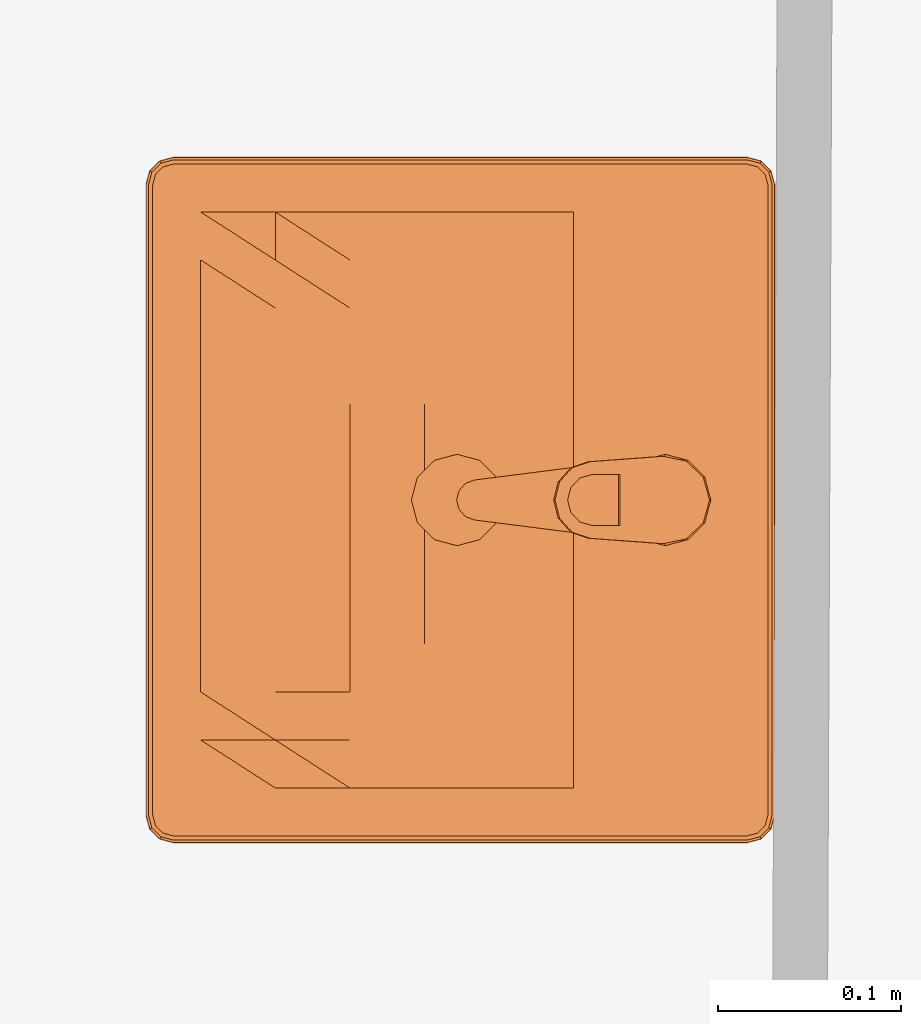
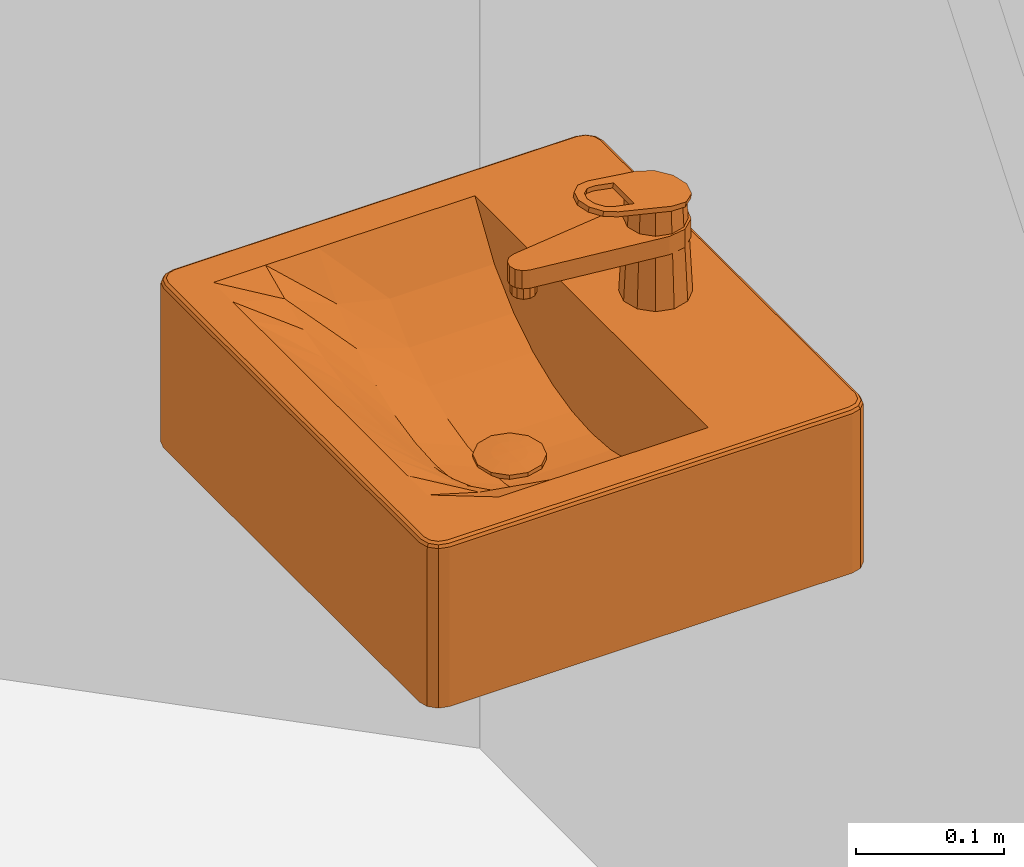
# One storey, part 142 of 158: 1 proxy.
"""IFC2X3 building model written with IfcOpenShell, lengths in metres."""

from ifc_helpers import new_model, entity, si_unit, converted_unit, derived_unit, money_unit, direction, frame, origin_with_axes, place, context, subcontext, project, spatial, open_shell, faceted_brep, surface_model, source, transform, mapped, type_object, element, save


model = new_model("IFC2X3")

# Units and contexts
model_context = context("Model", 3, precision=1e-05, world=origin_with_axes(), true_north=direction((0.0, 1.0)))
body_context = subcontext(model_context, "Body", "Model", "MODEL_VIEW")
ifc_project = project(units=[si_unit("LENGTHUNIT", "METRE"), si_unit("AREAUNIT", "SQUARE_METRE"), si_unit("VOLUMEUNIT", "CUBIC_METRE"), converted_unit("PLANEANGLEUNIT", "DEGREE", entity("IfcPlaneAngleMeasure", 0.0174532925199), si_unit("PLANEANGLEUNIT", "RADIAN"), dimensions=[0, 0, 0, 0, 0, 0, 0]), money_unit("EUR"), converted_unit("TIMEUNIT", "Year", entity("IfcTimeMeasure", 31556926.0), si_unit("TIMEUNIT", "SECOND"), dimensions=[0, 0, 1, 0, 0, 0, 0]), si_unit("MASSUNIT", "GRAM", prefix="KILO"), si_unit("THERMODYNAMICTEMPERATUREUNIT", "DEGREE_CELSIUS"), si_unit("LUMINOUSINTENSITYUNIT", "LUMEN"), si_unit("ENERGYUNIT", "JOULE", prefix="MEGA"), derived_unit("THERMALCONDUCTANCEUNIT", [(si_unit("POWERUNIT", "WATT"), 1), (si_unit("LENGTHUNIT", "METRE"), -1), (si_unit("THERMODYNAMICTEMPERATUREUNIT", "KELVIN"), -1)]), derived_unit("SPECIFICHEATCAPACITYUNIT", [(si_unit("ENERGYUNIT", "JOULE"), 1), (si_unit("MASSUNIT", "GRAM", prefix="KILO"), -1), (si_unit("THERMODYNAMICTEMPERATUREUNIT", "KELVIN"), -1)]), derived_unit("MASSDENSITYUNIT", [(si_unit("MASSUNIT", "GRAM", prefix="KILO"), 1), (si_unit("VOLUMEUNIT", "CUBIC_METRE"), -1)])], contexts=[model_context])

# Site, building, storey
site_placement = place(None, origin_with_axes())
site = spatial("IfcSite", under=ifc_project, at=site_placement, Name="Gelände", CompositionType="ELEMENT")
building_placement = place(site_placement, origin_with_axes())
building = spatial("IfcBuilding", under=site, at=building_placement, Name="Gebäude", CompositionType="ELEMENT")
storey_placement = place(building_placement, origin_with_axes())
storey = spatial("IfcBuildingStorey", under=building, at=storey_placement, Name="ERDGESCHOSS", CompositionType="ELEMENT", Elevation=0.0)

# Proxy
building_element_proxy_type = type_object("IfcBuildingElementProxyType", Name="Waschbecken 01 25", PredefinedType="NOTDEFINED")
shared_shape = source(origin_with_axes(), body_context, "Body", "SurfaceModel", [
    faceted_brep([(0.1725, -0.344011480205, 0.865), (-0.1725, -0.344011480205, 0.865), (-0.18, -0.342001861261, 0.865), (-0.185490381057, -0.336511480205, 0.865), (-0.1875, -0.329011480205, 0.865), (-0.1875, -0.015, 0.865), (-0.185490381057, -0.0075, 0.865), (-0.18, -0.00200961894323, 0.865), (-0.1725, 0.0, 0.865), (0.1725, 0.0, 0.865), (0.18, -0.00200961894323, 0.865), (0.185490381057, -0.0075, 0.865), (0.1875, -0.015, 0.865), (0.1875, -0.329011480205, 0.865), (0.185490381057, -0.336511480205, 0.865), (0.18, -0.342001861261, 0.865), (-0.1575, -0.314011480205, 0.865), (0.1575, -0.314011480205, 0.865), (0.1575, -0.11, 0.865), (-0.1575, -0.11, 0.865), (0.172499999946, -0.344011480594, 0.995), (-0.172499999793, -0.344011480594, 0.995), (-0.180000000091, -0.342001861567, 0.995), (-0.185490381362, -0.336511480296, 0.995), (-0.18750000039, -0.329011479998, 0.995), (-0.18750000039, -0.0150000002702, 0.995), (-0.185490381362, -0.00749999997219, 0.995), (-0.180000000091, -0.00200961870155, 0.995), (-0.172499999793, 3.25829641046e-10, 0.995), (0.172499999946, 3.25829641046e-10, 0.995), (0.180000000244, -0.00200961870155, 0.995), (0.185490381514, -0.00749999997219, 0.995), (0.18749999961, -0.0150000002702, 0.995), (0.18749999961, -0.329011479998, 0.995), (0.185490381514, -0.336511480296, 0.995), (0.180000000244, -0.342001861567, 0.995), (-0.1575, -0.314011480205, 0.999999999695), (0.1575, -0.314011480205, 0.999999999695), (0.1575, -0.11, 0.999999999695), (-0.1575, -0.11, 0.999999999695), (0.172477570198, -0.343841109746, 0.996294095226), (-0.172477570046, -0.343841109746, 0.996294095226), (-0.179911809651, -0.341849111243, 0.996294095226), (-0.185337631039, -0.336423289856, 0.996294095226), (-0.187329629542, -0.32898905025, 0.996294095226), (-0.187329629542, -0.0150224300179, 0.996294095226), (-0.185337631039, -0.0075881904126, 0.996294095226), (-0.179911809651, -0.00216236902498, 0.996294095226), (-0.172477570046, -0.000170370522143, 0.996294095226), (0.172477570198, -0.000170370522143, 0.996294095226), (0.179911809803, -0.00216236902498, 0.996294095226), (0.185337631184, -0.00758819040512, 0.996294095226), (0.187329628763, -0.0150224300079, 0.996294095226), (0.187329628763, -0.32898905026, 0.996294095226), (0.185337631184, -0.336423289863, 0.996294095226), (0.179911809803, -0.341849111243, 0.996294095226), (-0.17184173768, -0.00499999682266, 0.999999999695), (-0.177411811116, -0.00649249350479, 0.999999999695), (-0.181007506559, -0.0100881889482, 0.999999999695), (-0.182500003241, -0.0156582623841, 0.999999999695), (-0.182500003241, -0.328353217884, 0.999999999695), (-0.181007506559, -0.33392329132, 0.999999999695), (-0.177411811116, -0.337518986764, 0.999999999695), (-0.17184173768, -0.339011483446, 0.999999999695), (0.171841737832, -0.339011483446, 0.999999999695), (0.177411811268, -0.337518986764, 0.999999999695), (0.181007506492, -0.33392329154, 0.999999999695), (0.182500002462, -0.328353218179, 0.999999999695), (0.182500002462, -0.0156582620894, 0.999999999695), (0.181007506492, -0.0100881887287, 0.999999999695), (0.177411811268, -0.00649249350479, 0.999999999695), (0.171841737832, -0.00499999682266, 0.999999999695), (0.172307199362, -0.342547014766, 0.998535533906), (-0.172307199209, -0.342547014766, 0.998535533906), (-0.179241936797, -0.340688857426, 0.998535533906), (-0.184177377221, -0.335753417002, 0.998535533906), (-0.186035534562, -0.328818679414, 0.998535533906), (-0.186035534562, -0.0151928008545, 0.998535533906), (-0.184177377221, -0.00825806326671, 0.998535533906), (-0.179241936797, -0.0033226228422, 0.998535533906), (-0.172307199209, -0.00146446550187, 0.998535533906), (0.172307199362, -0.00146446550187, 0.998535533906), (0.179241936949, -0.0033226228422, 0.998535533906), (0.184177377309, -0.00825806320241, 0.998535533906), (0.186035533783, -0.0151928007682, 0.998535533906), (0.186035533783, -0.3288186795, 0.998535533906), (0.184177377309, -0.335753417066, 0.998535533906), (0.179241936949, -0.340688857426, 0.998535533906), (-0.178081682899, -0.00533224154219, 0.999829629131), (-0.172012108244, -0.0037059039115, 0.999829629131), (-0.182167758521, -0.00941831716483, 0.999829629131), (-0.183794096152, -0.0154878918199, 0.999829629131), (-0.183794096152, -0.328523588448, 0.999829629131), (-0.182167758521, -0.334593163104, 0.999829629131), (-0.178081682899, -0.338679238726, 0.999829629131), (-0.172012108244, -0.340305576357, 0.999829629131), (0.172012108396, -0.340305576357, 0.999829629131), (0.178081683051, -0.338679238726, 0.999829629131), (0.182167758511, -0.334593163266, 0.999829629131), (0.183794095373, -0.328523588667, 0.999829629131), (0.183794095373, -0.0154878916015, 0.999829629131), (0.182167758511, -0.00941831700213, 0.999829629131), (0.178081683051, -0.00533224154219, 0.999829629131), (0.172012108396, -0.0037059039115, 0.999829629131)], [[[0, 1, 2, 3, 4, 5, 6, 7, 8, 9, 10, 11, 12, 13, 14, 15], [16, 17, 18, 19]], [[0, 20, 21, 1]], [[1, 21, 22, 2]], [[2, 22, 23, 3]], [[3, 23, 24, 4]], [[4, 24, 25, 5]], [[5, 25, 26, 6]], [[6, 26, 27, 7]], [[7, 27, 28, 8]], [[8, 28, 29, 9]], [[9, 29, 30, 10]], [[10, 30, 31, 11]], [[11, 31, 32, 12]], [[12, 32, 33, 13]], [[13, 33, 34, 14]], [[14, 34, 35, 15]], [[15, 35, 20, 0]], [[36, 37, 17, 16]], [[37, 38, 18, 17]], [[38, 39, 19, 18]], [[39, 36, 16, 19]], [[20, 40, 41, 21]], [[21, 41, 42, 22]], [[22, 42, 43, 23]], [[23, 43, 44, 24]], [[24, 44, 45, 25]], [[25, 45, 46, 26]], [[26, 46, 47, 27]], [[27, 47, 48, 28]], [[28, 48, 49, 29]], [[29, 49, 50, 30]], [[30, 50, 51, 31]], [[31, 51, 52, 32]], [[32, 52, 53, 33]], [[33, 53, 54, 34]], [[34, 54, 55, 35]], [[35, 55, 40, 20]], [[56, 57, 58, 59, 60, 61, 62, 63, 64, 65, 66, 67, 68, 69, 70, 71], [36, 39, 38, 37]], [[40, 72, 73, 41]], [[41, 73, 74, 42]], [[42, 74, 75, 43]], [[43, 75, 76, 44]], [[44, 76, 77, 45]], [[45, 77, 78, 46]], [[46, 78, 79, 47]], [[47, 79, 80, 48]], [[48, 80, 81, 49]], [[49, 81, 82, 50]], [[50, 82, 83, 51]], [[51, 83, 84, 52]], [[52, 84, 85, 53]], [[53, 85, 86, 54]], [[54, 86, 87, 55]], [[55, 87, 72, 40]], [[88, 57, 56, 89]], [[90, 58, 57, 88]], [[91, 59, 58, 90]], [[92, 60, 59, 91]], [[93, 61, 60, 92]], [[94, 62, 61, 93]], [[95, 63, 62, 94]], [[96, 64, 63, 95]], [[97, 65, 64, 96]], [[98, 66, 65, 97]], [[99, 67, 66, 98]], [[100, 68, 67, 99]], [[101, 69, 68, 100]], [[102, 70, 69, 101]], [[103, 71, 70, 102]], [[89, 56, 71, 103]], [[72, 96, 95, 73]], [[73, 95, 94, 74]], [[74, 94, 93, 75]], [[75, 93, 92, 76]], [[76, 92, 91, 77]], [[77, 91, 90, 78]], [[78, 90, 88, 79]], [[79, 88, 89, 80]], [[80, 89, 103, 81]], [[81, 103, 102, 82]], [[82, 102, 101, 83]], [[83, 101, 100, 84]], [[84, 100, 99, 85]], [[85, 99, 98, 86]], [[86, 98, 97, 87]], [[87, 97, 96, 72]]]),
    faceted_brep([(-0.1575, -0.314011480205, 0.865), (-0.1575, -0.11, 0.865), (0.1575, -0.11, 0.865), (0.1575, -0.314011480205, 0.865), (0.0125, -0.195465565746, 0.865), (0.0216506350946, -0.186314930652, 0.865), (0.025, -0.173814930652, 0.865), (0.0216506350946, -0.161314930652, 0.865), (0.0125, -0.152164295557, 0.865), (0.0, -0.148814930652, 0.865), (-0.0125, -0.152164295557, 0.865), (-0.0216506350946, -0.161314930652, 0.865), (-0.025, -0.173814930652, 0.865), (-0.0216506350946, -0.186314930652, 0.865), (-0.0125, -0.195465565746, 0.865), (0.0, -0.198814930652, 0.865), (-0.1575, -0.232406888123, 1.0), (-0.1575, -0.191604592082, 1.0), (-0.1575, -0.150802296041, 1.0), (-0.1575, -0.11, 1.0), (-0.1575, -0.314011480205, 1.0), (-0.1575, -0.273209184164, 1.0), (0.07875, -0.11, 0.918836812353), (0.105, -0.11, 0.935244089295), (0.13125, -0.11, 0.959749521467), (0.1575, -0.11, 1.0), (-0.13125, -0.11, 0.959749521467), (-0.105, -0.11, 0.935244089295), (-0.07875, -0.11, 0.918836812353), (-0.0525, -0.11, 0.908107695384), (-0.02625, -0.11, 0.901991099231), (0.0, -0.11, 0.9), (0.02625, -0.11, 0.901991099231), (0.0525, -0.11, 0.908107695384), (0.1575, -0.191604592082, 1.0), (0.1575, -0.232406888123, 1.0), (0.1575, -0.273209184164, 1.0), (0.1575, -0.314011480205, 1.0), (0.1575, -0.150802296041, 1.0), (-0.07875, -0.314011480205, 1.0), (-0.105, -0.314011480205, 1.0), (-0.13125, -0.314011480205, 1.0), (0.13125, -0.314011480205, 1.0), (0.105, -0.314011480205, 1.0), (0.07875, -0.314011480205, 1.0), (0.0525, -0.314011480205, 1.0), (0.02625, -0.314011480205, 1.0), (0.0, -0.314011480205, 1.0), (-0.02625, -0.314011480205, 1.0), (-0.0525, -0.314011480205, 1.0), (0.0163609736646, -0.191604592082, 0.901241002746), (0.0216506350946, -0.186314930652, 0.901642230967), (0.0125, -0.195465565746, 0.902592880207), (0.025, -0.173814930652, 0.901896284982), (0.0216506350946, -0.161314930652, 0.901642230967), (0.0125, -0.152164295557, 0.900948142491), (0.0074169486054, -0.150802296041, 0.90056258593), (0.0, -0.148814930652, 0.9), (-0.0074169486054, -0.150802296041, 0.90056258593), (-0.0125, -0.152164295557, 0.900948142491), (-0.0216506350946, -0.161314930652, 0.901642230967), (-0.025, -0.173814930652, 0.901896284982), (-0.0216506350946, -0.186314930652, 0.901642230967), (-0.0163609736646, -0.191604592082, 0.901241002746), (-0.0125, -0.195465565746, 0.902575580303), (-0.0039566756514, -0.197754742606, 0.902892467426), (0.0, -0.198814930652, 0.903071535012), (-0.13125, -0.191604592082, 0.959749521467), (-0.13125, -0.150802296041, 0.959749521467), (-0.13125, -0.273209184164, 0.988021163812), (-0.13125, -0.232406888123, 0.969458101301), (0.105, -0.150802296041, 0.935244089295), (0.07875, -0.150802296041, 0.918836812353), (0.13125, -0.150802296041, 0.959749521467), (-0.105, -0.150802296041, 0.935244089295), (-0.07875, -0.150802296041, 0.918836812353), (-0.0525, -0.150802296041, 0.908107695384), (-0.02625, -0.150802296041, 0.901991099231), (0.02625, -0.150802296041, 0.901991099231), (0.0525, -0.150802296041, 0.908107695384), (0.13125, -0.232406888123, 0.969458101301), (0.13125, -0.273209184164, 0.988021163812), (0.13125, -0.191604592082, 0.959749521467), (-0.07875, -0.273209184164, 0.971352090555), (-0.105, -0.273209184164, 0.978541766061), (0.105, -0.273209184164, 0.978541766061), (0.07875, -0.273209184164, 0.971352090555), (0.0525, -0.273209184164, 0.966308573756), (0.02625, -0.273209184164, 0.963317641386), (0.0, -0.273209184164, 0.962326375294), (-0.02625, -0.273209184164, 0.963317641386), (-0.0525, -0.273209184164, 0.966308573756), (0.02625, -0.191604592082, 0.901991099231), (0.0, -0.232406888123, 0.917381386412), (-0.02625, -0.191604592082, 0.901991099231), (-0.02625, -0.232406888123, 0.919189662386), (-0.105, -0.191604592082, 0.935244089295), (0.105, -0.191604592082, 0.935244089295), (0.07875, -0.191604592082, 0.918836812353), (-0.07875, -0.191604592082, 0.918836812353), (-0.0525, -0.191604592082, 0.908107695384), (0.0525, -0.191604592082, 0.908107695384), (0.02625, -0.232406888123, 0.919189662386), (-0.0525, -0.232406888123, 0.924721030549), (-0.105, -0.232406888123, 0.948746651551), (0.07875, -0.232406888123, 0.934329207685), (0.105, -0.232406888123, 0.948746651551), (-0.07875, -0.232406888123, 0.934329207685), (0.0525, -0.232406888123, 0.924721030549)], [[[0, 1, 2, 3], [4, 5, 6, 7, 8, 9, 10, 11, 12, 13, 14, 15]], [[16, 17, 18, 19, 1, 0, 20, 21]], [[22, 23, 24, 25, 2, 1, 19, 26, 27, 28, 29, 30, 31, 32, 33]], [[34, 35, 36, 37, 3, 2, 25, 38]], [[39, 40, 41, 20, 0, 3, 37, 42, 43, 44, 45, 46, 47, 48, 49]], [[50, 51, 5, 4, 52]], [[51, 53, 6, 5]], [[53, 54, 7, 6]], [[54, 55, 8, 7]], [[55, 56, 57, 9, 8]], [[57, 58, 59, 10, 9]], [[59, 60, 11, 10]], [[60, 61, 12, 11]], [[61, 62, 13, 12]], [[63, 64, 14, 13, 62]], [[65, 66, 15, 14, 64]], [[66, 52, 4, 15]], [[16, 67, 17]], [[67, 68, 18, 17]], [[68, 26, 19, 18]], [[20, 69, 21]], [[21, 70, 16]], [[71, 23, 22, 72]], [[73, 24, 23, 71]], [[38, 25, 24, 73]], [[74, 27, 26, 68]], [[75, 28, 27, 74]], [[76, 29, 28, 75]], [[77, 30, 29, 76]], [[58, 57, 31, 30, 77]], [[57, 56, 78, 32, 31]], [[79, 33, 32, 78]], [[72, 22, 33, 79]], [[80, 35, 34]], [[81, 36, 35]], [[42, 37, 36]], [[34, 38, 73, 82]], [[40, 39, 83]], [[41, 40, 84]], [[20, 41, 69]], [[43, 42, 81]], [[44, 43, 85]], [[45, 44, 86]], [[46, 45, 87]], [[47, 46, 88]], [[48, 47, 89]], [[49, 48, 90]], [[39, 49, 91]], [[55, 54, 53, 51, 50, 92, 78, 56]], [[52, 66, 93, 92, 50]], [[59, 58, 77, 94, 63, 62, 61, 60]], [[64, 63, 94, 95, 65]], [[66, 65, 95, 93]], [[16, 70, 67]], [[96, 74, 68, 67]], [[21, 69, 70]], [[97, 71, 72, 98]], [[82, 73, 71, 97]], [[99, 75, 74, 96]], [[100, 76, 75, 99]], [[94, 77, 76, 100]], [[101, 79, 78, 92]], [[98, 72, 79, 101]], [[81, 35, 80]], [[80, 34, 82]], [[42, 36, 81]], [[39, 91, 83]], [[40, 83, 84]], [[41, 84, 69]], [[43, 81, 85]], [[44, 85, 86]], [[45, 86, 87]], [[46, 87, 88]], [[47, 88, 89]], [[48, 89, 90]], [[49, 90, 91]], [[93, 102, 92]], [[103, 95, 94]], [[90, 93, 95]], [[70, 96, 67]], [[69, 104, 70]], [[105, 97, 98]], [[106, 82, 97]], [[104, 99, 96]], [[107, 100, 99]], [[103, 94, 100]], [[102, 101, 92]], [[108, 98, 101]], [[85, 81, 80]], [[106, 80, 82]], [[83, 91, 103]], [[84, 83, 107]], [[69, 84, 104]], [[86, 85, 106]], [[87, 86, 105]], [[88, 87, 108]], [[89, 88, 102]], [[90, 89, 93]], [[91, 90, 95]], [[89, 102, 93]], [[91, 95, 103]], [[70, 104, 96]], [[105, 106, 97]], [[108, 105, 98]], [[104, 107, 99]], [[107, 103, 100]], [[102, 108, 101]], [[85, 80, 106]], [[83, 103, 107]], [[84, 107, 104]], [[86, 106, 105]], [[87, 105, 108]], [[88, 108, 102]]]),
    faceted_brep([(0.0216506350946, -0.186314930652, 0.9), (0.0125, -0.195465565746, 0.9), (0.0, -0.198814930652, 0.9), (-0.0125, -0.195465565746, 0.9), (-0.0216506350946, -0.186314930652, 0.9), (-0.025, -0.173814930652, 0.9), (-0.0216506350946, -0.161314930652, 0.9), (-0.0125, -0.152164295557, 0.9), (0.0, -0.148814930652, 0.9), (0.0125, -0.152164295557, 0.9), (0.0216506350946, -0.161314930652, 0.9), (0.025, -0.173814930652, 0.9), (0.0216506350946, -0.186314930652, 0.905), (0.0125, -0.195465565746, 0.905), (0.0, -0.198814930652, 0.905), (-0.0125, -0.195465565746, 0.905), (-0.0216506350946, -0.186314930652, 0.905), (-0.025, -0.173814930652, 0.905), (-0.0216506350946, -0.161314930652, 0.905), (-0.0125, -0.152164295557, 0.905), (0.0, -0.148814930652, 0.905), (0.0125, -0.152164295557, 0.905), (0.0216506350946, -0.161314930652, 0.905), (0.025, -0.173814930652, 0.905)], [[[0, 1, 2, 3, 4, 5, 6, 7, 8, 9, 10, 11]], [[1, 0, 12, 13]], [[2, 1, 13, 14]], [[3, 2, 14, 15]], [[4, 3, 15, 16]], [[5, 4, 16, 17]], [[6, 5, 17, 18]], [[7, 6, 18, 19]], [[8, 7, 19, 20]], [[9, 8, 20, 21]], [[10, 9, 21, 22]], [[11, 10, 22, 23]], [[0, 11, 23, 12]], [[12, 23, 22, 21, 20, 19, 18, 17, 16, 15, 14, 13]]]),
    surface_model("IfcShellBasedSurfaceModel", [(0.0, -0.173814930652, 0.907), (0.0, -0.16119302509, 0.90649757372), (-0.00631095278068, -0.162884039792, 0.90649757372), (0.00631095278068, -0.162884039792, 0.90649757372), (0.0, -0.148814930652, 0.905), (-0.0125, -0.152164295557, 0.905), (-0.0109308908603, -0.167503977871, 0.90649757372), (0.0109308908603, -0.167503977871, 0.90649757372), (0.0125, -0.152164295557, 0.905), (-0.0216506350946, -0.161314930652, 0.905), (-0.0126219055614, -0.173814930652, 0.90649757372), (0.0126219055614, -0.173814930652, 0.90649757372), (0.0216506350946, -0.161314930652, 0.905), (-0.025, -0.173814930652, 0.905), (-0.0109308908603, -0.180125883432, 0.90649757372), (0.0109308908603, -0.180125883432, 0.90649757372), (0.025, -0.173814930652, 0.905), (-0.0216506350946, -0.186314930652, 0.905), (-0.00631095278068, -0.184745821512, 0.90649757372), (0.00631095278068, -0.184745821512, 0.90649757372), (0.0216506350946, -0.186314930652, 0.905), (-0.0125, -0.195465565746, 0.905), (0.0, -0.186436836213, 0.90649757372), (0.0125, -0.195465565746, 0.905), (0.0, -0.198814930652, 0.905)], [open_shell([[[0, 1, 2]], [[0, 3, 1]], [[2, 1, 4, 5]], [[0, 2, 6]], [[0, 7, 3]], [[1, 3, 8, 4]], [[6, 2, 5, 9]], [[0, 6, 10]], [[0, 11, 7]], [[3, 7, 12, 8]], [[10, 6, 9, 13]], [[0, 10, 14]], [[0, 15, 11]], [[7, 11, 16, 12]], [[14, 10, 13, 17]], [[0, 14, 18]], [[0, 19, 15]], [[11, 15, 20, 16]], [[18, 14, 17, 21]], [[0, 18, 22]], [[0, 22, 19]], [[15, 19, 23, 20]], [[22, 18, 21, 24]], [[19, 22, 24, 23]]])]),
    faceted_brep([(0.0125, -0.0383493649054, 1.0), (0.0, -0.035, 1.0), (0.0, -0.0387980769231, 1.07596153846), (0.0105873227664, -0.0416622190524, 1.07650708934), (0.0216506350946, -0.0475, 1.0), (0.025, -0.06, 1.0), (0.0216506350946, -0.0725, 1.0), (0.0125, -0.0816506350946, 1.0), (0.0, -0.085, 1.0), (-0.0125, -0.0816506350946, 1.0), (-0.0216506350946, -0.0725, 1.0), (-0.025, -0.06, 1.0), (-0.0216506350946, -0.0475, 1.0), (-0.0125, -0.0383493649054, 1.0), (-0.0105873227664, -0.0416622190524, 1.07650708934), (-0.0182735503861, -0.0494497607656, 1.07799043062), (-0.021, -0.06, 1.08), (-0.0181003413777, -0.0704502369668, 1.08199052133), (-0.0104141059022, -0.078037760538, 1.08343576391), (0.0, -0.0808018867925, 1.08396226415), (0.0104141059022, -0.078037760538, 1.08343576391), (0.0181003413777, -0.0704502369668, 1.08199052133), (0.021, -0.06, 1.08), (0.0182735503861, -0.0494497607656, 1.07799043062)], [[[0, 1, 2, 3]], [[0, 4, 5, 6, 7, 8, 9, 10, 11, 12, 13, 1]], [[1, 13, 14, 2]], [[3, 2, 14, 15, 16, 17, 18, 19, 20, 21, 22, 23]], [[4, 0, 3, 23]], [[5, 4, 23, 22]], [[6, 5, 22, 21]], [[7, 6, 21, 20]], [[8, 7, 20, 19]], [[9, 8, 19, 18]], [[10, 9, 18, 17]], [[11, 10, 17, 16]], [[12, 11, 16, 15]], [[13, 12, 15, 14]]]),
    faceted_brep([(0.009, -0.163, 1.035), (0.00779422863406, -0.1585, 1.035), (0.00779422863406, -0.1585, 1.045), (0.009, -0.163, 1.045), (0.00779422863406, -0.1675, 1.035), (0.0045, -0.170794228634, 1.035), (0.0, -0.172, 1.035), (-0.0045, -0.170794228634, 1.035), (-0.00779422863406, -0.1675, 1.035), (-0.009, -0.163, 1.035), (-0.00779422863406, -0.1585, 1.035), (-0.0045, -0.155205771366, 1.035), (0.0, -0.154, 1.035), (0.0045, -0.155205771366, 1.035), (0.0045, -0.155205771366, 1.045), (0.0, -0.154, 1.045), (-0.0045, -0.155205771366, 1.045), (-0.00779422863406, -0.1585, 1.045), (-0.009, -0.163, 1.045), (-0.00779422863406, -0.1675, 1.045), (-0.0045, -0.170794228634, 1.045), (0.0, -0.172, 1.045), (0.0045, -0.170794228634, 1.045), (0.00779422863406, -0.1675, 1.045)], [[[0, 1, 2, 3]], [[0, 4, 5, 6, 7, 8, 9, 10, 11, 12, 13, 1]], [[1, 13, 14, 2]], [[3, 2, 14, 15, 16, 17, 18, 19, 20, 21, 22, 23]], [[4, 0, 3, 23]], [[5, 4, 23, 22]], [[6, 5, 22, 21]], [[7, 6, 21, 20]], [[8, 7, 20, 19]], [[9, 8, 19, 18]], [[10, 9, 18, 17]], [[11, 10, 17, 16]], [[12, 11, 16, 15]], [[13, 12, 15, 14]]]),
    faceted_brep([(-0.0128717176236, -0.0397436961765, 1.06), (-0.021727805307, -0.0498067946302, 1.06), (-0.0238054, -0.0630499, 1.06), (-0.010911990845, -0.164388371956, 1.06), (-0.00902887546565, -0.169283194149, 1.06), (-0.00509332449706, -0.172749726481, 1.06), (3.62679860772e-08, -0.17399996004, 1.06), (0.00509338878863, -0.172749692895, 1.06), (0.00902891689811, -0.169283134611, 1.06), (0.010912, -0.1643883, 1.06), (0.0238053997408, -0.0630499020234, 1.06), (0.0217278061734, -0.049806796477, 1.06), (0.0128717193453, -0.0397436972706, 1.06), (1.01998896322e-09, -0.036000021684, 1.06), (0.011, -0.0409474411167, 1.06), (0.0190525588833, -0.049, 1.06), (0.022, -0.06, 1.06), (0.0190525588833, -0.071, 1.06), (0.011, -0.0790525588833, 1.06), (0.0, -0.082, 1.06), (-0.011, -0.0790525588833, 1.06), (-0.0190525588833, -0.071, 1.06), (-0.022, -0.06, 1.06), (-0.0190525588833, -0.049, 1.06), (-0.011, -0.0409474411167, 1.06), (0.0, -0.038, 1.06), (-0.021727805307, -0.0498067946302, 1.045), (-0.0128717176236, -0.0397436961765, 1.045), (-0.0238054, -0.0630499, 1.045), (-0.010911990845, -0.164388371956, 1.045), (-0.00902887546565, -0.169283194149, 1.045), (-0.00509332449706, -0.172749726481, 1.045), (3.62679860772e-08, -0.17399996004, 1.045), (0.00509338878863, -0.172749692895, 1.045), (0.00902891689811, -0.169283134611, 1.045), (0.010912, -0.1643883, 1.045), (0.0238053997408, -0.0630499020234, 1.045), (0.0217278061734, -0.049806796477, 1.045), (0.0128717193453, -0.0397436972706, 1.045), (1.01998896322e-09, -0.036000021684, 1.045), (0.011375, -0.0402979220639, 1.045), (0.0197020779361, -0.048625, 1.045), (0.02275, -0.06, 1.045), (0.0197020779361, -0.071375, 1.045), (0.011375, -0.0797020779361, 1.045), (0.0, -0.08275, 1.045), (-0.011375, -0.0797020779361, 1.045), (-0.0197020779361, -0.071375, 1.045), (-0.02275, -0.06, 1.045), (-0.0197020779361, -0.048625, 1.045), (-0.011375, -0.0402979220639, 1.045), (0.0, -0.03725, 1.045)], [[[0, 1, 2, 3, 4, 5, 6, 7, 8, 9, 10, 11, 12, 13], [14, 15, 16, 17, 18, 19, 20, 21, 22, 23, 24, 25]], [[26, 1, 0, 27]], [[28, 2, 1, 26]], [[29, 3, 2, 28]], [[30, 4, 3, 29]], [[31, 5, 4, 30]], [[32, 6, 5, 31]], [[33, 7, 6, 32]], [[34, 8, 7, 33]], [[35, 9, 8, 34]], [[36, 10, 9, 35]], [[37, 11, 10, 36]], [[38, 12, 11, 37]], [[39, 13, 12, 38]], [[27, 0, 13, 39]], [[40, 41, 15, 14]], [[41, 42, 16, 15]], [[42, 43, 17, 16]], [[43, 44, 18, 17]], [[44, 45, 19, 18]], [[20, 19, 45, 46]], [[21, 20, 46, 47]], [[22, 21, 47, 48]], [[23, 22, 48, 49]], [[24, 23, 49, 50]], [[50, 51, 25, 24]], [[51, 40, 14, 25]], [[32, 31, 30, 29, 28, 26, 27, 39, 38, 37, 36, 35, 34, 33], [44, 43, 42, 41, 40, 51, 50, 49, 48, 47, 46, 45]]]),
    faceted_brep([(0.023893, -0.0616925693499, 1.08032239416), (0.0212964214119, -0.049225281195, 1.07794767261), (0.0212964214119, -0.0484768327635, 1.08187702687), (0.023893, -0.0609441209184, 1.08425174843), (0.0209459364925, -0.101836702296, 1.08796889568), (0.0176631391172, -0.111514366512, 1.08981226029), (0.0100614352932, -0.118463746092, 1.09113595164), (-4.42652908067e-07, -0.12098561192, 1.09161630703), (-0.0100622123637, -0.118463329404, 1.09113587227), (-0.0176636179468, -0.111513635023, 1.08981212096), (-0.020946, -0.101835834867, 1.08796873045), (-0.023893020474, -0.0616922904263, 1.08032234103), (-0.0212962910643, -0.0492250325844, 1.07794762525), (-0.0124716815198, -0.0399088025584, 1.07617310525), (1.42337785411e-07, -0.0364680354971, 1.07551772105), (0.0124719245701, -0.0399089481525, 1.07617313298), (0.014, -0.085540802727, 1.08486491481), (-0.014, -0.085540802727, 1.08486491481), (-0.014, -0.100356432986, 1.08768693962), (-0.012124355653, -0.107232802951, 1.08899672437), (-0.007, -0.112266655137, 1.08995555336), (0.0, -0.114109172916, 1.09030650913), (0.007, -0.112266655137, 1.08995555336), (0.012124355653, -0.107232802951, 1.08899672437), (0.014, -0.100356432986, 1.08768693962), (0.0124719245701, -0.0391604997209, 1.08010248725), (1.42337785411e-07, -0.0357195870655, 1.07944707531), (-0.0124716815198, -0.0391603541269, 1.08010245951), (-0.0212962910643, -0.0484765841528, 1.08187697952), (-0.023893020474, -0.0609438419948, 1.0842516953), (-0.020946, -0.101087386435, 1.09189808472), (-0.0176636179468, -0.110765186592, 1.09374147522), (-0.0100622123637, -0.117714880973, 1.09506522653), (-4.42652908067e-07, -0.120237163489, 1.0955456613), (0.0100614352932, -0.11771529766, 1.0950653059), (0.0176631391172, -0.11076591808, 1.09374161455), (0.0209459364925, -0.101088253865, 1.09189824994), (0.014, -0.0847923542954, 1.08879426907), (0.014, -0.0996079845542, 1.09161629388), (0.012124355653, -0.106484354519, 1.09292607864), (0.007, -0.111518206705, 1.09388490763), (0.0, -0.113360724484, 1.09423586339), (-0.007, -0.111518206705, 1.09388490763), (-0.012124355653, -0.106484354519, 1.09292607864), (-0.014, -0.0996079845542, 1.09161629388), (-0.014, -0.0847923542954, 1.08879426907)], [[[0, 1, 2, 3]], [[0, 4, 5, 6, 7, 8, 9, 10, 11, 12, 13, 14, 15, 1], [16, 17, 18, 19, 20, 21, 22, 23, 24]], [[1, 15, 25, 2]], [[3, 2, 25, 26, 27, 28, 29, 30, 31, 32, 33, 34, 35, 36], [37, 38, 39, 40, 41, 42, 43, 44, 45]], [[4, 0, 3, 36]], [[5, 4, 36, 35]], [[6, 5, 35, 34]], [[7, 6, 34, 33]], [[8, 7, 33, 32]], [[9, 8, 32, 31]], [[10, 9, 31, 30]], [[11, 10, 30, 29]], [[12, 11, 29, 28]], [[13, 12, 28, 27]], [[14, 13, 27, 26]], [[15, 14, 26, 25]], [[17, 16, 37, 45]], [[18, 17, 45, 44]], [[19, 18, 44, 43]], [[20, 19, 43, 42]], [[21, 20, 42, 41]], [[22, 21, 41, 40]], [[23, 22, 40, 39]], [[24, 23, 39, 38]], [[16, 24, 38, 37]]]),
])
proxy_placement = place(storey_placement, frame((21.1391975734, 25.0515052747, -0.352504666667), z_axis=(0.0, 0.0, 1.0), x_axis=(0.0, -1.0, 0.0)))
element("IfcBuildingElementProxy", 1, at=proxy_placement, inside=storey, type_object=building_element_proxy_type, Name="Objekt-00219", context=body_context, shape_type="MappedRepresentation", body=[
    mapped(shared_shape, transform((0.0, 0.0, 0.0))),
])

save(model, "model.ifc")
